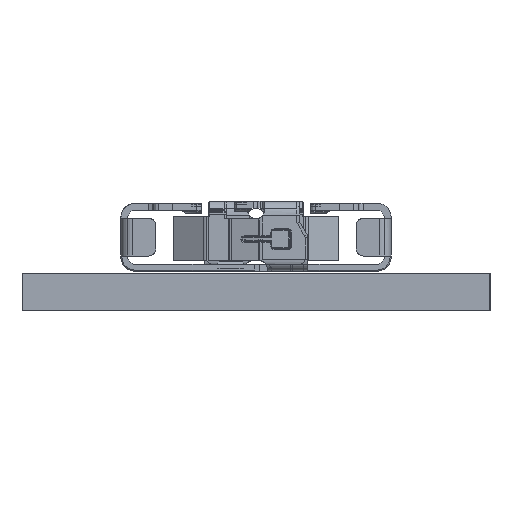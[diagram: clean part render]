
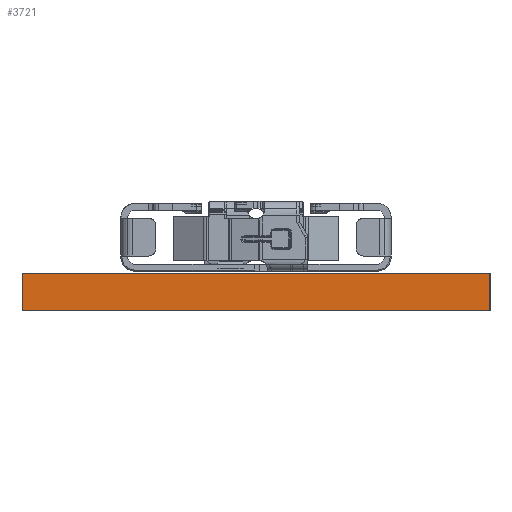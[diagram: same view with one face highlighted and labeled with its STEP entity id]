
A CAD part, left-side view. The second image highlights one B-rep face of the part: STEP entity #3721.
In plain terms, the highlighted planar face has unit normal (-1, 0, 0).
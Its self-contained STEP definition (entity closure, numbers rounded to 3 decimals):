
#343=CARTESIAN_POINT('Vertex',(-9.827,10.,0.002)) ;
#346=CARTESIAN_POINT('Line Origine',(-9.827,0.,0.002)) ;
#350=CARTESIAN_POINT('Vertex',(-9.827,-10.,0.002)) ;
#2631=CARTESIAN_POINT('Vertex',(-9.827,-10.,-1.6)) ;
#2634=CARTESIAN_POINT('Line Origine',(-9.827,0.,-1.6)) ;
#2638=CARTESIAN_POINT('Vertex',(-9.827,10.,-1.6)) ;
#3693=CARTESIAN_POINT('Line Origine',(-9.827,-10.,-0.799)) ;
#3705=CARTESIAN_POINT('Axis2P3D Location',(-9.827,10.,0.)) ;
#3710=CARTESIAN_POINT('Line Origine',(-9.827,10.,-0.799)) ;
#347=DIRECTION('Vector Direction',(0.,-1.,0.)) ;
#2635=DIRECTION('Vector Direction',(0.,-1.,0.)) ;
#3694=DIRECTION('Vector Direction',(0.,0.,-1.)) ;
#3706=DIRECTION('Axis2P3D Direction',(1.,0.,0.)) ;
#3707=DIRECTION('Axis2P3D XDirection',(0.,-1.,0.)) ;
#3711=DIRECTION('Vector Direction',(0.,0.,-1.)) ;
#3708=AXIS2_PLACEMENT_3D('Plane Axis2P3D',#3705,#3706,#3707) ;
#3716=ORIENTED_EDGE('',*,*,#352,.T.) ;
#3717=ORIENTED_EDGE('',*,*,#3714,.T.) ;
#3718=ORIENTED_EDGE('',*,*,#2640,.T.) ;
#3719=ORIENTED_EDGE('',*,*,#3697,.F.) ;
#348=VECTOR('Line Direction',#347,1.) ;
#2636=VECTOR('Line Direction',#2635,1.) ;
#3695=VECTOR('Line Direction',#3694,1.) ;
#3712=VECTOR('Line Direction',#3711,1.) ;
#3721=ADVANCED_FACE('PartBody',(#3720),#3709,.F.) ;
#352=EDGE_CURVE('',#351,#344,#349,.F.) ;
#2640=EDGE_CURVE('',#2639,#2632,#2637,.T.) ;
#3697=EDGE_CURVE('',#351,#2632,#3696,.T.) ;
#3714=EDGE_CURVE('',#344,#2639,#3713,.T.) ;
#3715=EDGE_LOOP('',(#3716,#3717,#3718,#3719)) ;
#3720=FACE_OUTER_BOUND('',#3715,.T.) ;
#349=LINE('Line',#346,#348) ;
#2637=LINE('Line',#2634,#2636) ;
#3696=LINE('Line',#3693,#3695) ;
#3713=LINE('Line',#3710,#3712) ;
#3709=PLANE('',#3708) ;
#344=VERTEX_POINT('',#343) ;
#351=VERTEX_POINT('',#350) ;
#2632=VERTEX_POINT('',#2631) ;
#2639=VERTEX_POINT('',#2638) ;
